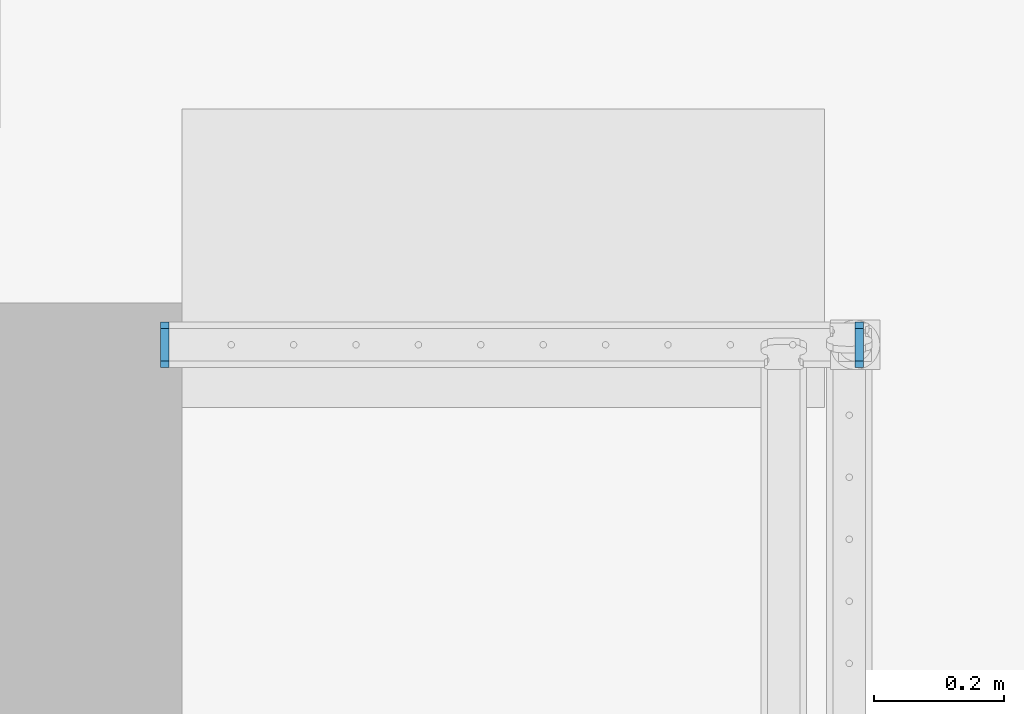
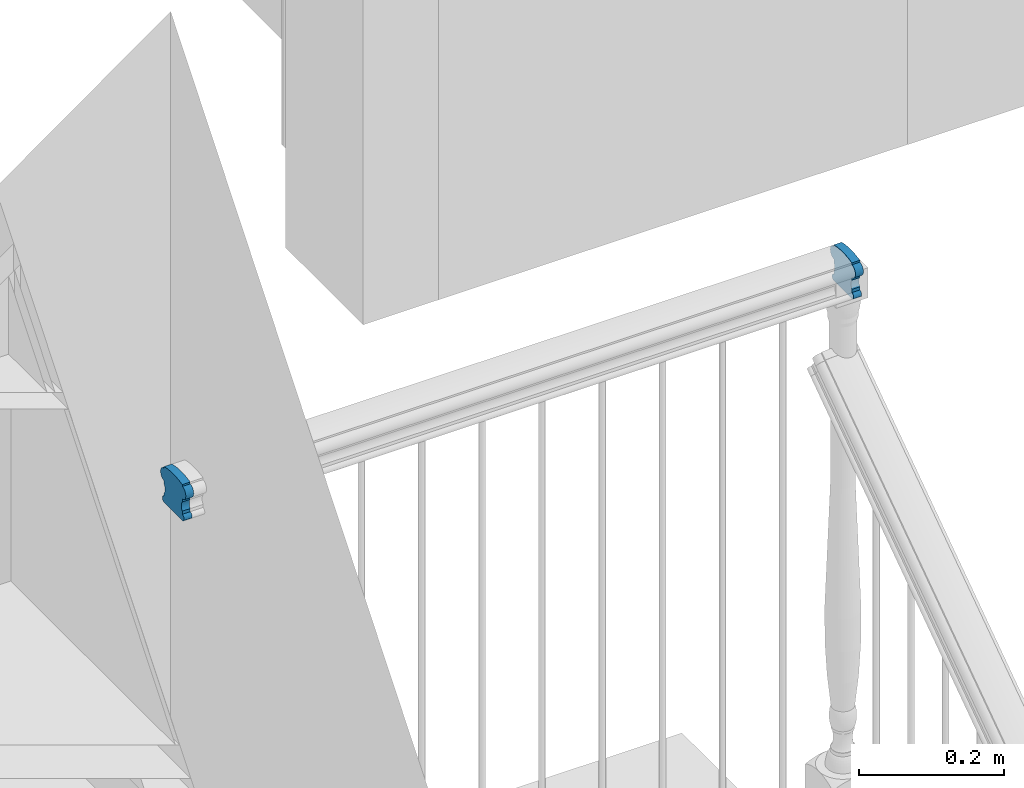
# One storey, part 27 of 77: 2 building element parts, 1 element without a shape of its own.
"""IFC2X3 building model written with IfcOpenShell, lengths in inches."""

from ifc_helpers import new_model, entity, si_unit, converted_unit, derived_unit, money_unit, direction, frame, origin_with_axes, place, context, subcontext, project, spatial, faceted_brep, material, type_object, element, aggregate, save


model = new_model("IFC2X3")

# Units and contexts
model_context = context("Model", 3, precision=0.000393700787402, world=origin_with_axes(), true_north=direction((0.0, 1.0)))
body_context = subcontext(model_context, "Body", "Model", "MODEL_VIEW")
ifc_project = project(units=[converted_unit("LENGTHUNIT", "INCH", entity("IfcPositiveLengthMeasure", 0.0254), si_unit("LENGTHUNIT", "METRE"), dimensions=[1, 0, 0, 0, 0, 0, 0]), converted_unit("AREAUNIT", "SQUARE_FOOT", entity("IfcPositiveLengthMeasure", 0.09290304), si_unit("AREAUNIT", "SQUARE_METRE"), dimensions=[2, 0, 0, 0, 0, 0, 0]), si_unit("PLANEANGLEUNIT", "RADIAN"), si_unit("SOLIDANGLEUNIT", "STERADIAN"), money_unit("USD"), converted_unit("TIMEUNIT", "Year", entity("IfcTimeMeasure", 31556926.0), si_unit("TIMEUNIT", "SECOND"), dimensions=[0, 0, 1, 0, 0, 0, 0]), si_unit("MASSUNIT", "GRAM", prefix="KILO"), si_unit("THERMODYNAMICTEMPERATUREUNIT", "DEGREE_CELSIUS"), si_unit("LUMINOUSINTENSITYUNIT", "LUMEN"), si_unit("ENERGYUNIT", "JOULE", prefix="MEGA"), derived_unit("THERMALCONDUCTANCEUNIT", [(si_unit("POWERUNIT", "WATT"), 1), (si_unit("LENGTHUNIT", "METRE"), -1), (si_unit("THERMODYNAMICTEMPERATUREUNIT", "KELVIN"), -1)]), derived_unit("SPECIFICHEATCAPACITYUNIT", [(si_unit("ENERGYUNIT", "JOULE"), 1), (si_unit("MASSUNIT", "GRAM", prefix="KILO"), -1), (si_unit("THERMODYNAMICTEMPERATUREUNIT", "KELVIN"), -1)]), derived_unit("MASSDENSITYUNIT", [(si_unit("MASSUNIT", "GRAM", prefix="KILO"), 1), (si_unit("VOLUMEUNIT", "CUBIC_METRE"), -1)])], contexts=[model_context])

# Site, building, storey
site_placement = place(None, origin_with_axes())
site = spatial("IfcSite", under=ifc_project, at=site_placement, Name="Site", CompositionType="ELEMENT")
building_placement = place(site_placement, origin_with_axes())
building = spatial("IfcBuilding", under=site, at=building_placement, Name="Building", CompositionType="ELEMENT")
storey_placement = place(building_placement, frame((0.0, 0.0, 127.952755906), z_axis=(0.0, 0.0, 1.0), x_axis=(1.0, 0.0, 0.0)))
storey = spatial("IfcBuildingStorey", under=building, at=storey_placement, Name="Second Floor", CompositionType="ELEMENT", Elevation=127.953)

# Railing, building element parts
railing_type = type_object("IfcRailingType", Name="Railing Type", PredefinedType="NOTDEFINED")
railing_placement = place(storey_placement, frame((643.187139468, 142.90717231, 0.0), z_axis=(0.0, 0.0, 1.0), x_axis=(0.0, 1.0, 0.0)))
railing = element("IfcRailing", 1, at=railing_placement, inside=storey, type_object=railing_type, Name="RAILING - 001", PredefinedType="NOTDEFINED")
ifc_material = material(Name="Wood - Structural")
building_element_part_1_placement = place(railing_placement, origin_with_axes())
building_element_part_1 = element("IfcBuildingElementPart", 2, at=building_element_part_1_placement, material=ifc_material, Name="Wood - Structural", context=body_context, shape_type="Brep", body=[
    faceted_brep([(2.95870018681, 0.0, 39.8773496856), (2.95870018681, 0.0, 39.7546993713), (2.95870018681, 0.5, 39.7546993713), (2.95870018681, 0.5, 39.8773496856), (2.90015196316, 0.0, 39.8915961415), (2.53034410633, 0.0, 39.9608753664), (2.15626030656, 0.0, 39.9956472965), (1.78074756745, 0.0, 39.9956472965), (1.40666376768, 0.0, 39.9608753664), (1.03685591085, 0.0, 39.8915961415), (0.97830768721, 0.0, 39.8773496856), (0.97830768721, 0.0, 39.7546993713), (0.944769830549, 0.0, 39.753143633), (0.878713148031, 0.0, 39.7407686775), (0.815682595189, 0.0, 39.7163947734), (0.757593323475, 0.0, 39.6807625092), (0.706210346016, 0.0, 39.6349545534), (0.663094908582, 0.0, 39.5803627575), (0.629557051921, 0.0, 39.5186458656), (0.606615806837, 0.0, 39.4516791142), (0.594968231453, 0.0, 39.3814972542), (0.594968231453, 0.0, 39.3102327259), (0.606615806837, 0.0, 39.2400508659), (0.629557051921, 0.0, 39.1730841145), (0.663094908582, 0.0, 39.1113672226), (0.706210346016, 0.0, 39.0567754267), (0.757593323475, 0.0, 39.0109674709), (0.815682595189, 0.0, 38.9753352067), (0.878713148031, 0.0, 38.9509613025), (0.944769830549, 0.0, 38.9385863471), (0.97830768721, 0.0, 38.9370306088), (0.97830768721, 0.0, 38.7326134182), (1.00088455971, 0.0, 38.7011676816), (1.04067773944, 0.0, 38.6279396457), (1.06789787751, 0.0, 38.5484825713), (1.08171790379, 0.0, 38.4652107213), (1.08171790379, 0.0, 38.3806542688), (1.06789787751, 0.0, 38.2973824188), (1.04067773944, 0.0, 38.2179253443), (1.00088455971, 0.0, 38.1446973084), (0.97830768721, 0.0, 38.1132515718), (0.97830768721, 0.0, 37.9088343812), (0.96153875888, 0.0, 37.9080565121), (0.928510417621, 0.0, 37.9018690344), (0.896995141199, 0.0, 37.8896820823), (0.867950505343, 0.0, 37.8718659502), (0.842259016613, 0.0, 37.8489619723), (0.820701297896, 0.0, 37.8216660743), (0.803932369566, 0.0, 37.7908076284), (0.792461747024, 0.0, 37.7573242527), (0.786637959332, 0.0, 37.7222333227), (0.786637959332, 0.0, 37.6866010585), (0.792461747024, 0.0, 37.6515101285), (0.803932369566, 0.0, 37.6180267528), (0.820701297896, 0.0, 37.5871683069), (0.842259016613, 0.0, 37.5598724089), (0.867950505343, 0.0, 37.536968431), (0.896995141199, 0.0, 37.519152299), (0.928510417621, 0.0, 37.5069653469), (0.96153875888, 0.0, 37.5007778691), (0.97830768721, 0.0, 37.5), (2.95870018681, 0.0, 37.5), (2.97546911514, 0.0, 37.5007778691), (3.0084974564, 0.0, 37.5069653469), (3.04001273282, 0.0, 37.519152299), (3.06905736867, 0.0, 37.536968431), (3.0947488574, 0.0, 37.5598724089), (3.11630657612, 0.0, 37.5871683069), (3.13307550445, 0.0, 37.6180267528), (3.14454612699, 0.0, 37.6515101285), (3.15036991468, 0.0, 37.6866010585), (3.15036991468, 0.0, 37.7222333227), (3.14454612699, 0.0, 37.7573242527), (3.13307550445, 0.0, 37.7908076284), (3.11630657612, 0.0, 37.8216660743), (3.0947488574, 0.0, 37.8489619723), (3.06905736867, 0.0, 37.8718659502), (3.04001273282, 0.0, 37.8896820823), (3.0084974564, 0.0, 37.9018690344), (2.97546911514, 0.0, 37.9080565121), (2.95870018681, 0.0, 37.9088343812), (2.95870018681, 0.0, 38.1132515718), (2.93612331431, 0.0, 38.1446973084), (2.89633013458, 0.0, 38.2179253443), (2.86910999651, 0.0, 38.2973824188), (2.85528997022, 0.0, 38.3806542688), (2.85528997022, 0.0, 38.4652107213), (2.86910999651, 0.0, 38.5484825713), (2.89633013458, 0.0, 38.6279396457), (2.93612331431, 0.0, 38.7011676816), (2.95870018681, 0.0, 38.7326134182), (2.95870018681, 0.0, 38.9370306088), (2.99223804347, 0.0, 38.9385863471), (3.05829472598, 0.0, 38.9509613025), (3.12132527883, 0.0, 38.9753352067), (3.17941455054, 0.0, 39.0109674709), (3.230797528, 0.0, 39.0567754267), (3.27391296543, 0.0, 39.1113672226), (3.30745082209, 0.0, 39.1730841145), (3.33039206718, 0.0, 39.2400508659), (3.34203964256, 0.0, 39.3102327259), (3.34203964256, 0.0, 39.3814972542), (3.33039206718, 0.0, 39.4516791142), (3.30745082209, 0.0, 39.5186458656), (3.27391296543, 0.0, 39.5803627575), (3.230797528, 0.0, 39.6349545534), (3.17941455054, 0.0, 39.6807625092), (3.12132527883, 0.0, 39.7163947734), (3.05829472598, 0.0, 39.7407686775), (2.99223804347, 0.0, 39.753143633), (2.99223804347, 0.5, 39.753143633), (3.05829472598, 0.5, 39.7407686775), (3.12132527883, 0.5, 39.7163947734), (3.17941455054, 0.5, 39.6807625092), (3.230797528, 0.5, 39.6349545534), (3.27391296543, 0.5, 39.5803627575), (3.30745082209, 0.5, 39.5186458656), (3.33039206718, 0.5, 39.4516791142), (3.34203964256, 0.5, 39.3814972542), (3.34203964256, 0.5, 39.3102327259), (3.33039206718, 0.5, 39.2400508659), (3.30745082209, 0.5, 39.1730841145), (3.27391296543, 0.5, 39.1113672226), (3.230797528, 0.5, 39.0567754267), (3.17941455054, 0.5, 39.0109674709), (3.12132527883, 0.5, 38.9753352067), (3.05829472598, 0.5, 38.9509613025), (2.99223804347, 0.5, 38.9385863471), (2.95870018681, 0.5, 38.9370306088), (2.95870018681, 0.5, 38.7326134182), (2.93612331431, 0.5, 38.7011676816), (2.89633013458, 0.5, 38.6279396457), (2.86910999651, 0.5, 38.5484825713), (2.85528997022, 0.5, 38.4652107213), (2.85528997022, 0.5, 38.3806542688), (2.86910999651, 0.5, 38.2973824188), (2.89633013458, 0.5, 38.2179253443), (2.93612331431, 0.5, 38.1446973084), (2.95870018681, 0.5, 38.1132515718), (2.95870018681, 0.5, 37.9088343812), (2.97546911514, 0.5, 37.9080565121), (3.0084974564, 0.5, 37.9018690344), (3.04001273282, 0.5, 37.8896820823), (3.06905736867, 0.5, 37.8718659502), (3.0947488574, 0.5, 37.8489619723), (3.11630657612, 0.5, 37.8216660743), (3.13307550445, 0.5, 37.7908076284), (3.14454612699, 0.5, 37.7573242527), (3.15036991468, 0.5, 37.7222333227), (3.15036991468, 0.5, 37.6866010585), (3.14454612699, 0.5, 37.6515101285), (3.13307550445, 0.5, 37.6180267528), (3.11630657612, 0.5, 37.5871683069), (3.0947488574, 0.5, 37.5598724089), (3.06905736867, 0.5, 37.536968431), (3.04001273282, 0.5, 37.519152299), (3.0084974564, 0.5, 37.5069653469), (2.97546911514, 0.5, 37.5007778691), (2.95870018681, 0.5, 37.5), (0.97830768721, 0.5, 37.5), (0.96153875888, 0.5, 37.5007778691), (0.928510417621, 0.5, 37.5069653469), (0.896995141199, 0.5, 37.519152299), (0.867950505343, 0.5, 37.536968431), (0.842259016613, 0.5, 37.5598724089), (0.820701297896, 0.5, 37.5871683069), (0.803932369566, 0.5, 37.6180267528), (0.792461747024, 0.5, 37.6515101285), (0.786637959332, 0.5, 37.6866010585), (0.786637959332, 0.5, 37.7222333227), (0.792461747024, 0.5, 37.7573242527), (0.803932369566, 0.5, 37.7908076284), (0.820701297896, 0.5, 37.8216660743), (0.842259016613, 0.5, 37.8489619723), (0.867950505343, 0.5, 37.8718659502), (0.896995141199, 0.5, 37.8896820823), (0.928510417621, 0.5, 37.9018690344), (0.96153875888, 0.5, 37.9080565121), (0.97830768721, 0.5, 37.9088343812), (0.97830768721, 0.5, 38.1132515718), (1.00088455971, 0.5, 38.1446973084), (1.04067773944, 0.5, 38.2179253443), (1.06789787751, 0.5, 38.2973824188), (1.08171790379, 0.5, 38.3806542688), (1.08171790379, 0.5, 38.4652107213), (1.06789787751, 0.5, 38.5484825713), (1.04067773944, 0.5, 38.6279396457), (1.00088455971, 0.5, 38.7011676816), (0.97830768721, 0.5, 38.7326134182), (0.97830768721, 0.5, 38.9370306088), (0.944769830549, 0.5, 38.9385863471), (0.878713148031, 0.5, 38.9509613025), (0.815682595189, 0.5, 38.9753352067), (0.757593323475, 0.5, 39.0109674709), (0.706210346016, 0.5, 39.0567754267), (0.663094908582, 0.5, 39.1113672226), (0.629557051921, 0.5, 39.1730841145), (0.606615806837, 0.5, 39.2400508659), (0.594968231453, 0.5, 39.3102327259), (0.594968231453, 0.5, 39.3814972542), (0.606615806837, 0.5, 39.4516791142), (0.629557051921, 0.5, 39.5186458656), (0.663094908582, 0.5, 39.5803627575), (0.706210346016, 0.5, 39.6349545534), (0.757593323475, 0.5, 39.6807625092), (0.815682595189, 0.5, 39.7163947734), (0.878713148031, 0.5, 39.7407686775), (0.944769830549, 0.5, 39.753143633), (0.97830768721, 0.5, 39.7546993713), (0.97830768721, 0.5, 39.8773496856), (1.03685591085, 0.5, 39.8915961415), (1.40666376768, 0.5, 39.9608753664), (1.78074756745, 0.5, 39.9956472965), (2.15626030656, 0.5, 39.9956472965), (2.53034410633, 0.5, 39.9608753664), (2.90015196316, 0.5, 39.8915961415)], [[[0, 1, 2, 3]], [[0, 4, 5, 6, 7, 8, 9, 10, 11, 12, 13, 14, 15, 16, 17, 18, 19, 20, 21, 22, 23, 24, 25, 26, 27, 28, 29, 30, 31, 32, 33, 34, 35, 36, 37, 38, 39, 40, 41, 42, 43, 44, 45, 46, 47, 48, 49, 50, 51, 52, 53, 54, 55, 56, 57, 58, 59, 60, 61, 62, 63, 64, 65, 66, 67, 68, 69, 70, 71, 72, 73, 74, 75, 76, 77, 78, 79, 80, 81, 82, 83, 84, 85, 86, 87, 88, 89, 90, 91, 92, 93, 94, 95, 96, 97, 98, 99, 100, 101, 102, 103, 104, 105, 106, 107, 108, 109, 1]], [[1, 109, 110, 2]], [[3, 2, 110, 111, 112, 113, 114, 115, 116, 117, 118, 119, 120, 121, 122, 123, 124, 125, 126, 127, 128, 129, 130, 131, 132, 133, 134, 135, 136, 137, 138, 139, 140, 141, 142, 143, 144, 145, 146, 147, 148, 149, 150, 151, 152, 153, 154, 155, 156, 157, 158, 159, 160, 161, 162, 163, 164, 165, 166, 167, 168, 169, 170, 171, 172, 173, 174, 175, 176, 177, 178, 179, 180, 181, 182, 183, 184, 185, 186, 187, 188, 189, 190, 191, 192, 193, 194, 195, 196, 197, 198, 199, 200, 201, 202, 203, 204, 205, 206, 207, 208, 209, 210, 211, 212, 213, 214, 215]], [[4, 0, 3, 215]], [[5, 4, 215, 214]], [[6, 5, 214, 213]], [[7, 6, 213, 212]], [[8, 7, 212, 211]], [[9, 8, 211, 210]], [[10, 9, 210, 209]], [[11, 10, 209, 208]], [[12, 11, 208, 207]], [[13, 12, 207, 206]], [[14, 13, 206, 205]], [[15, 14, 205, 204]], [[16, 15, 204, 203]], [[17, 16, 203, 202]], [[18, 17, 202, 201]], [[19, 18, 201, 200]], [[20, 19, 200, 199]], [[21, 20, 199, 198]], [[22, 21, 198, 197]], [[23, 22, 197, 196]], [[24, 23, 196, 195]], [[25, 24, 195, 194]], [[26, 25, 194, 193]], [[27, 26, 193, 192]], [[28, 27, 192, 191]], [[29, 28, 191, 190]], [[30, 29, 190, 189]], [[31, 30, 189, 188]], [[32, 31, 188, 187]], [[33, 32, 187, 186]], [[34, 33, 186, 185]], [[35, 34, 185, 184]], [[36, 35, 184, 183]], [[37, 36, 183, 182]], [[38, 37, 182, 181]], [[39, 38, 181, 180]], [[40, 39, 180, 179]], [[41, 40, 179, 178]], [[42, 41, 178, 177]], [[43, 42, 177, 176]], [[44, 43, 176, 175]], [[45, 44, 175, 174]], [[46, 45, 174, 173]], [[47, 46, 173, 172]], [[48, 47, 172, 171]], [[49, 48, 171, 170]], [[50, 49, 170, 169]], [[51, 50, 169, 168]], [[52, 51, 168, 167]], [[53, 52, 167, 166]], [[54, 53, 166, 165]], [[55, 54, 165, 164]], [[56, 55, 164, 163]], [[57, 56, 163, 162]], [[58, 57, 162, 161]], [[59, 58, 161, 160]], [[60, 59, 160, 159]], [[61, 60, 159, 158]], [[62, 61, 158, 157]], [[63, 62, 157, 156]], [[64, 63, 156, 155]], [[65, 64, 155, 154]], [[66, 65, 154, 153]], [[67, 66, 153, 152]], [[68, 67, 152, 151]], [[69, 68, 151, 150]], [[70, 69, 150, 149]], [[71, 70, 149, 148]], [[72, 71, 148, 147]], [[73, 72, 147, 146]], [[74, 73, 146, 145]], [[75, 74, 145, 144]], [[76, 75, 144, 143]], [[77, 76, 143, 142]], [[78, 77, 142, 141]], [[79, 78, 141, 140]], [[80, 79, 140, 139]], [[81, 80, 139, 138]], [[82, 81, 138, 137]], [[83, 82, 137, 136]], [[84, 83, 136, 135]], [[85, 84, 135, 134]], [[86, 85, 134, 133]], [[87, 86, 133, 132]], [[88, 87, 132, 131]], [[89, 88, 131, 130]], [[90, 89, 130, 129]], [[91, 90, 129, 128]], [[92, 91, 128, 127]], [[93, 92, 127, 126]], [[94, 93, 126, 125]], [[95, 94, 125, 124]], [[96, 95, 124, 123]], [[97, 96, 123, 122]], [[98, 97, 122, 121]], [[99, 98, 121, 120]], [[100, 99, 120, 119]], [[101, 100, 119, 118]], [[102, 101, 118, 117]], [[103, 102, 117, 116]], [[104, 103, 116, 115]], [[105, 104, 115, 114]], [[106, 105, 114, 113]], [[107, 106, 113, 112]], [[108, 107, 112, 111]], [[109, 108, 111, 110]]]),
])
building_element_part_2_placement = place(railing_placement, origin_with_axes())
building_element_part_2 = element("IfcBuildingElementPart", 3, at=building_element_part_2_placement, material=ifc_material, Name="Wood - Structural", context=body_context, shape_type="Brep", body=[
    faceted_brep([(0.978307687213, -41.6002269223, 39.8773496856), (0.978307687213, -41.6002269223, 39.7546993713), (0.978307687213, -42.1002269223, 39.7546993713), (0.978307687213, -42.1002269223, 39.8773496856), (1.03685591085, -41.6002269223, 39.8915961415), (1.40666376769, -41.6002269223, 39.9608753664), (1.78074756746, -41.6002269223, 39.9956472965), (2.15626030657, -41.6002269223, 39.9956472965), (2.53034410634, -41.6002269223, 39.9608753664), (2.90015196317, -41.6002269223, 39.8915961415), (2.95870018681, -41.6002269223, 39.8773496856), (2.95870018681, -41.6002269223, 39.7546993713), (2.99223804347, -41.6002269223, 39.753143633), (3.05829472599, -41.6002269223, 39.7407686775), (3.12132527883, -41.6002269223, 39.7163947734), (3.17941455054, -41.6002269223, 39.6807625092), (3.230797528, -41.6002269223, 39.6349545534), (3.27391296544, -41.6002269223, 39.5803627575), (3.3074508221, -41.6002269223, 39.5186458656), (3.33039206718, -41.6002269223, 39.4516791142), (3.34203964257, -41.6002269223, 39.3814972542), (3.34203964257, -41.6002269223, 39.3102327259), (3.33039206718, -41.6002269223, 39.2400508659), (3.3074508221, -41.6002269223, 39.1730841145), (3.27391296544, -41.6002269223, 39.1113672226), (3.230797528, -41.6002269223, 39.0567754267), (3.17941455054, -41.6002269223, 39.0109674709), (3.12132527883, -41.6002269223, 38.9753352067), (3.05829472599, -41.6002269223, 38.9509613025), (2.99223804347, -41.6002269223, 38.9385863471), (2.95870018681, -41.6002269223, 38.9370306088), (2.95870018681, -41.6002269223, 38.7326134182), (2.93612331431, -41.6002269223, 38.7011676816), (2.89633013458, -41.6002269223, 38.6279396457), (2.86910999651, -41.6002269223, 38.5484825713), (2.85528997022, -41.6002269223, 38.4652107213), (2.85528997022, -41.6002269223, 38.3806542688), (2.86910999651, -41.6002269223, 38.2973824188), (2.89633013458, -41.6002269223, 38.2179253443), (2.93612331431, -41.6002269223, 38.1446973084), (2.95870018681, -41.6002269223, 38.1132515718), (2.95870018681, -41.6002269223, 37.9088343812), (2.97546911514, -41.6002269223, 37.9080565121), (3.0084974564, -41.6002269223, 37.9018690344), (3.04001273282, -41.6002269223, 37.8896820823), (3.06905736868, -41.6002269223, 37.8718659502), (3.09474885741, -41.6002269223, 37.8489619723), (3.11630657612, -41.6002269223, 37.8216660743), (3.13307550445, -41.6002269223, 37.7908076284), (3.144546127, -41.6002269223, 37.7573242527), (3.15036991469, -41.6002269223, 37.7222333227), (3.15036991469, -41.6002269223, 37.6866010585), (3.144546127, -41.6002269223, 37.6515101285), (3.13307550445, -41.6002269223, 37.6180267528), (3.11630657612, -41.6002269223, 37.5871683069), (3.09474885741, -41.6002269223, 37.5598724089), (3.06905736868, -41.6002269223, 37.536968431), (3.04001273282, -41.6002269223, 37.519152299), (3.0084974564, -41.6002269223, 37.5069653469), (2.97546911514, -41.6002269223, 37.5007778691), (2.95870018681, -41.6002269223, 37.5), (0.978307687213, -41.6002269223, 37.5), (0.961538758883, -41.6002269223, 37.5007778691), (0.928510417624, -41.6002269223, 37.5069653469), (0.896995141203, -41.6002269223, 37.519152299), (0.867950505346, -41.6002269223, 37.536968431), (0.842259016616, -41.6002269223, 37.5598724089), (0.820701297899, -41.6002269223, 37.5871683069), (0.803932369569, -41.6002269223, 37.6180267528), (0.792461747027, -41.6002269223, 37.6515101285), (0.786637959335, -41.6002269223, 37.6866010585), (0.786637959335, -41.6002269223, 37.7222333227), (0.792461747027, -41.6002269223, 37.7573242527), (0.803932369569, -41.6002269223, 37.7908076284), (0.820701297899, -41.6002269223, 37.8216660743), (0.842259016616, -41.6002269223, 37.8489619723), (0.867950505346, -41.6002269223, 37.8718659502), (0.896995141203, -41.6002269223, 37.8896820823), (0.928510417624, -41.6002269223, 37.9018690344), (0.961538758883, -41.6002269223, 37.9080565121), (0.978307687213, -41.6002269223, 37.9088343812), (0.978307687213, -41.6002269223, 38.1132515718), (1.00088455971, -41.6002269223, 38.1446973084), (1.04067773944, -41.6002269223, 38.2179253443), (1.06789787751, -41.6002269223, 38.2973824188), (1.0817179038, -41.6002269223, 38.3806542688), (1.0817179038, -41.6002269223, 38.4652107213), (1.06789787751, -41.6002269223, 38.5484825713), (1.04067773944, -41.6002269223, 38.6279396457), (1.00088455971, -41.6002269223, 38.7011676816), (0.978307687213, -41.6002269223, 38.7326134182), (0.978307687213, -41.6002269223, 38.9370306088), (0.944769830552, -41.6002269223, 38.9385863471), (0.878713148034, -41.6002269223, 38.9509613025), (0.815682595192, -41.6002269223, 38.9753352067), (0.757593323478, -41.6002269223, 39.0109674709), (0.706210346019, -41.6002269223, 39.0567754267), (0.663094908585, -41.6002269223, 39.1113672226), (0.629557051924, -41.6002269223, 39.1730841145), (0.60661580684, -41.6002269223, 39.2400508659), (0.594968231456, -41.6002269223, 39.3102327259), (0.594968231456, -41.6002269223, 39.3814972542), (0.60661580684, -41.6002269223, 39.4516791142), (0.629557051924, -41.6002269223, 39.5186458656), (0.663094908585, -41.6002269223, 39.5803627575), (0.706210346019, -41.6002269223, 39.6349545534), (0.757593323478, -41.6002269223, 39.6807625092), (0.815682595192, -41.6002269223, 39.7163947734), (0.878713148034, -41.6002269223, 39.7407686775), (0.944769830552, -41.6002269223, 39.753143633), (0.944769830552, -42.1002269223, 39.753143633), (0.878713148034, -42.1002269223, 39.7407686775), (0.815682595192, -42.1002269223, 39.7163947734), (0.757593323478, -42.1002269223, 39.6807625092), (0.706210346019, -42.1002269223, 39.6349545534), (0.663094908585, -42.1002269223, 39.5803627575), (0.629557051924, -42.1002269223, 39.5186458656), (0.60661580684, -42.1002269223, 39.4516791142), (0.594968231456, -42.1002269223, 39.3814972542), (0.594968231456, -42.1002269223, 39.3102327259), (0.60661580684, -42.1002269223, 39.2400508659), (0.629557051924, -42.1002269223, 39.1730841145), (0.663094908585, -42.1002269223, 39.1113672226), (0.706210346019, -42.1002269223, 39.0567754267), (0.757593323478, -42.1002269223, 39.0109674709), (0.815682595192, -42.1002269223, 38.9753352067), (0.878713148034, -42.1002269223, 38.9509613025), (0.944769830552, -42.1002269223, 38.9385863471), (0.978307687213, -42.1002269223, 38.9370306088), (0.978307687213, -42.1002269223, 38.7326134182), (1.00088455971, -42.1002269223, 38.7011676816), (1.04067773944, -42.1002269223, 38.6279396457), (1.06789787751, -42.1002269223, 38.5484825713), (1.0817179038, -42.1002269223, 38.4652107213), (1.0817179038, -42.1002269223, 38.3806542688), (1.06789787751, -42.1002269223, 38.2973824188), (1.04067773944, -42.1002269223, 38.2179253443), (1.00088455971, -42.1002269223, 38.1446973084), (0.978307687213, -42.1002269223, 38.1132515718), (0.978307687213, -42.1002269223, 37.9088343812), (0.961538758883, -42.1002269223, 37.9080565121), (0.928510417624, -42.1002269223, 37.9018690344), (0.896995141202, -42.1002269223, 37.8896820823), (0.867950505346, -42.1002269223, 37.8718659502), (0.842259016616, -42.1002269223, 37.8489619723), (0.820701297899, -42.1002269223, 37.8216660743), (0.803932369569, -42.1002269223, 37.7908076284), (0.792461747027, -42.1002269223, 37.7573242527), (0.786637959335, -42.1002269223, 37.7222333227), (0.786637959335, -42.1002269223, 37.6866010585), (0.792461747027, -42.1002269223, 37.6515101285), (0.803932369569, -42.1002269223, 37.6180267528), (0.820701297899, -42.1002269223, 37.5871683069), (0.842259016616, -42.1002269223, 37.5598724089), (0.867950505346, -42.1002269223, 37.536968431), (0.896995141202, -42.1002269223, 37.519152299), (0.928510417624, -42.1002269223, 37.5069653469), (0.961538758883, -42.1002269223, 37.5007778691), (0.978307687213, -42.1002269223, 37.5), (2.95870018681, -42.1002269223, 37.5), (2.97546911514, -42.1002269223, 37.5007778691), (3.0084974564, -42.1002269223, 37.5069653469), (3.04001273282, -42.1002269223, 37.519152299), (3.06905736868, -42.1002269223, 37.536968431), (3.09474885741, -42.1002269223, 37.5598724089), (3.11630657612, -42.1002269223, 37.5871683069), (3.13307550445, -42.1002269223, 37.6180267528), (3.144546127, -42.1002269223, 37.6515101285), (3.15036991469, -42.1002269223, 37.6866010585), (3.15036991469, -42.1002269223, 37.7222333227), (3.144546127, -42.1002269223, 37.7573242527), (3.13307550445, -42.1002269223, 37.7908076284), (3.11630657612, -42.1002269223, 37.8216660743), (3.09474885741, -42.1002269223, 37.8489619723), (3.06905736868, -42.1002269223, 37.8718659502), (3.04001273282, -42.1002269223, 37.8896820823), (3.0084974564, -42.1002269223, 37.9018690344), (2.97546911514, -42.1002269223, 37.9080565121), (2.95870018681, -42.1002269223, 37.9088343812), (2.95870018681, -42.1002269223, 38.1132515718), (2.93612331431, -42.1002269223, 38.1446973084), (2.89633013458, -42.1002269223, 38.2179253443), (2.86910999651, -42.1002269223, 38.2973824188), (2.85528997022, -42.1002269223, 38.3806542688), (2.85528997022, -42.1002269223, 38.4652107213), (2.86910999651, -42.1002269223, 38.5484825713), (2.89633013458, -42.1002269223, 38.6279396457), (2.93612331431, -42.1002269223, 38.7011676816), (2.95870018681, -42.1002269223, 38.7326134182), (2.95870018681, -42.1002269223, 38.9370306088), (2.99223804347, -42.1002269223, 38.9385863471), (3.05829472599, -42.1002269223, 38.9509613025), (3.12132527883, -42.1002269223, 38.9753352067), (3.17941455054, -42.1002269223, 39.0109674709), (3.230797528, -42.1002269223, 39.0567754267), (3.27391296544, -42.1002269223, 39.1113672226), (3.3074508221, -42.1002269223, 39.1730841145), (3.33039206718, -42.1002269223, 39.2400508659), (3.34203964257, -42.1002269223, 39.3102327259), (3.34203964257, -42.1002269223, 39.3814972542), (3.33039206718, -42.1002269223, 39.4516791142), (3.3074508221, -42.1002269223, 39.5186458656), (3.27391296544, -42.1002269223, 39.5803627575), (3.230797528, -42.1002269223, 39.6349545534), (3.17941455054, -42.1002269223, 39.6807625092), (3.12132527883, -42.1002269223, 39.7163947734), (3.05829472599, -42.1002269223, 39.7407686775), (2.99223804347, -42.1002269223, 39.753143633), (2.95870018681, -42.1002269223, 39.7546993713), (2.95870018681, -42.1002269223, 39.8773496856), (2.90015196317, -42.1002269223, 39.8915961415), (2.53034410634, -42.1002269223, 39.9608753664), (2.15626030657, -42.1002269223, 39.9956472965), (1.78074756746, -42.1002269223, 39.9956472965), (1.40666376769, -42.1002269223, 39.9608753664), (1.03685591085, -42.1002269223, 39.8915961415)], [[[0, 1, 2, 3]], [[0, 4, 5, 6, 7, 8, 9, 10, 11, 12, 13, 14, 15, 16, 17, 18, 19, 20, 21, 22, 23, 24, 25, 26, 27, 28, 29, 30, 31, 32, 33, 34, 35, 36, 37, 38, 39, 40, 41, 42, 43, 44, 45, 46, 47, 48, 49, 50, 51, 52, 53, 54, 55, 56, 57, 58, 59, 60, 61, 62, 63, 64, 65, 66, 67, 68, 69, 70, 71, 72, 73, 74, 75, 76, 77, 78, 79, 80, 81, 82, 83, 84, 85, 86, 87, 88, 89, 90, 91, 92, 93, 94, 95, 96, 97, 98, 99, 100, 101, 102, 103, 104, 105, 106, 107, 108, 109, 1]], [[1, 109, 110, 2]], [[3, 2, 110, 111, 112, 113, 114, 115, 116, 117, 118, 119, 120, 121, 122, 123, 124, 125, 126, 127, 128, 129, 130, 131, 132, 133, 134, 135, 136, 137, 138, 139, 140, 141, 142, 143, 144, 145, 146, 147, 148, 149, 150, 151, 152, 153, 154, 155, 156, 157, 158, 159, 160, 161, 162, 163, 164, 165, 166, 167, 168, 169, 170, 171, 172, 173, 174, 175, 176, 177, 178, 179, 180, 181, 182, 183, 184, 185, 186, 187, 188, 189, 190, 191, 192, 193, 194, 195, 196, 197, 198, 199, 200, 201, 202, 203, 204, 205, 206, 207, 208, 209, 210, 211, 212, 213, 214, 215]], [[4, 0, 3, 215]], [[5, 4, 215, 214]], [[6, 5, 214, 213]], [[7, 6, 213, 212]], [[8, 7, 212, 211]], [[9, 8, 211, 210]], [[10, 9, 210, 209]], [[11, 10, 209, 208]], [[12, 11, 208, 207]], [[13, 12, 207, 206]], [[14, 13, 206, 205]], [[15, 14, 205, 204]], [[16, 15, 204, 203]], [[17, 16, 203, 202]], [[18, 17, 202, 201]], [[19, 18, 201, 200]], [[20, 19, 200, 199]], [[21, 20, 199, 198]], [[22, 21, 198, 197]], [[23, 22, 197, 196]], [[24, 23, 196, 195]], [[25, 24, 195, 194]], [[26, 25, 194, 193]], [[27, 26, 193, 192]], [[28, 27, 192, 191]], [[29, 28, 191, 190]], [[30, 29, 190, 189]], [[31, 30, 189, 188]], [[32, 31, 188, 187]], [[33, 32, 187, 186]], [[34, 33, 186, 185]], [[35, 34, 185, 184]], [[36, 35, 184, 183]], [[37, 36, 183, 182]], [[38, 37, 182, 181]], [[39, 38, 181, 180]], [[40, 39, 180, 179]], [[41, 40, 179, 178]], [[42, 41, 178, 177]], [[43, 42, 177, 176]], [[44, 43, 176, 175]], [[45, 44, 175, 174]], [[46, 45, 174, 173]], [[47, 46, 173, 172]], [[48, 47, 172, 171]], [[49, 48, 171, 170]], [[50, 49, 170, 169]], [[51, 50, 169, 168]], [[52, 51, 168, 167]], [[53, 52, 167, 166]], [[54, 53, 166, 165]], [[55, 54, 165, 164]], [[56, 55, 164, 163]], [[57, 56, 163, 162]], [[58, 57, 162, 161]], [[59, 58, 161, 160]], [[60, 59, 160, 159]], [[61, 60, 159, 158]], [[62, 61, 158, 157]], [[63, 62, 157, 156]], [[64, 63, 156, 155]], [[65, 64, 155, 154]], [[66, 65, 154, 153]], [[67, 66, 153, 152]], [[68, 67, 152, 151]], [[69, 68, 151, 150]], [[70, 69, 150, 149]], [[71, 70, 149, 148]], [[72, 71, 148, 147]], [[73, 72, 147, 146]], [[74, 73, 146, 145]], [[75, 74, 145, 144]], [[76, 75, 144, 143]], [[77, 76, 143, 142]], [[78, 77, 142, 141]], [[79, 78, 141, 140]], [[80, 79, 140, 139]], [[81, 80, 139, 138]], [[82, 81, 138, 137]], [[83, 82, 137, 136]], [[84, 83, 136, 135]], [[85, 84, 135, 134]], [[86, 85, 134, 133]], [[87, 86, 133, 132]], [[88, 87, 132, 131]], [[89, 88, 131, 130]], [[90, 89, 130, 129]], [[91, 90, 129, 128]], [[92, 91, 128, 127]], [[93, 92, 127, 126]], [[94, 93, 126, 125]], [[95, 94, 125, 124]], [[96, 95, 124, 123]], [[97, 96, 123, 122]], [[98, 97, 122, 121]], [[99, 98, 121, 120]], [[100, 99, 120, 119]], [[101, 100, 119, 118]], [[102, 101, 118, 117]], [[103, 102, 117, 116]], [[104, 103, 116, 115]], [[105, 104, 115, 114]], [[106, 105, 114, 113]], [[107, 106, 113, 112]], [[108, 107, 112, 111]], [[109, 108, 111, 110]]]),
])
aggregate(railing, [building_element_part_1, building_element_part_2])

save(model, "model.ifc")
